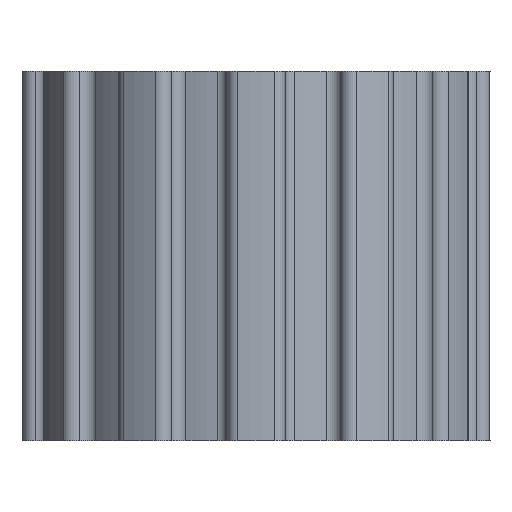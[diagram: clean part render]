
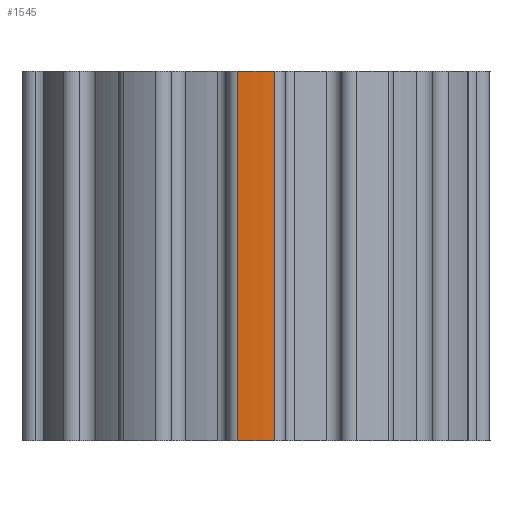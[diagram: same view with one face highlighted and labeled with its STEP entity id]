
A CAD part, front view. The second image highlights one B-rep face of the part: STEP entity #1545.
In plain terms, the highlighted cylindrical face has radius 10 mm (diameter 20 mm), a partial arc.
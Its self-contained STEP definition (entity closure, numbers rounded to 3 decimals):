
#38=CYLINDRICAL_SURFACE('',#1745,10.);
#124=LINE('',#2677,#214);
#134=LINE('',#2715,#224);
#214=VECTOR('',#2112,10.);
#224=VECTOR('',#2158,10.);
#306=FACE_OUTER_BOUND('',#395,.T.);
#395=EDGE_LOOP('',(#1209,#1210,#1211,#1212));
#460=CIRCLE('',#1624,10.);
#552=CIRCLE('',#1746,10.);
#615=VERTEX_POINT('',#2449);
#616=VERTEX_POINT('',#2451);
#709=VERTEX_POINT('',#2676);
#719=VERTEX_POINT('',#2714);
#778=EDGE_CURVE('',#615,#616,#460,.T.);
#889=EDGE_CURVE('',#616,#709,#124,.T.);
#908=EDGE_CURVE('',#719,#615,#134,.T.);
#909=EDGE_CURVE('',#719,#709,#552,.T.);
#1209=ORIENTED_EDGE('',*,*,#908,.F.);
#1210=ORIENTED_EDGE('',*,*,#909,.T.);
#1211=ORIENTED_EDGE('',*,*,#889,.F.);
#1212=ORIENTED_EDGE('',*,*,#778,.F.);
#1545=ADVANCED_FACE('',(#306),#38,.T.);
#1624=AXIS2_PLACEMENT_3D('',#2452,#1876,#1877);
#1745=AXIS2_PLACEMENT_3D('',#2713,#2156,#2157);
#1746=AXIS2_PLACEMENT_3D('',#2716,#2159,#2160);
#1876=DIRECTION('center_axis',(0.,0.,1.));
#1877=DIRECTION('ref_axis',(-1.,0.,0.));
#2112=DIRECTION('',(0.,0.,-1.));
#2156=DIRECTION('center_axis',(0.,0.,1.));
#2157=DIRECTION('ref_axis',(0.,-1.,0.));
#2158=DIRECTION('',(0.,0.,1.));
#2159=DIRECTION('center_axis',(0.,0.,1.));
#2160=DIRECTION('ref_axis',(0.,1.,0.));
#2449=CARTESIAN_POINT('',(-77.782,12.031,26.8));
#2451=CARTESIAN_POINT('',(-76.218,12.031,26.8));
#2452=CARTESIAN_POINT('Origin',(-77.,22.,26.8));
#2676=CARTESIAN_POINT('',(-76.218,12.031,11.));
#2677=CARTESIAN_POINT('',(-76.218,12.031,19.));
#2713=CARTESIAN_POINT('Origin',(-77.,22.,19.));
#2714=CARTESIAN_POINT('',(-77.782,12.031,11.));
#2715=CARTESIAN_POINT('',(-77.782,12.031,19.));
#2716=CARTESIAN_POINT('Origin',(-77.,22.,11.));
